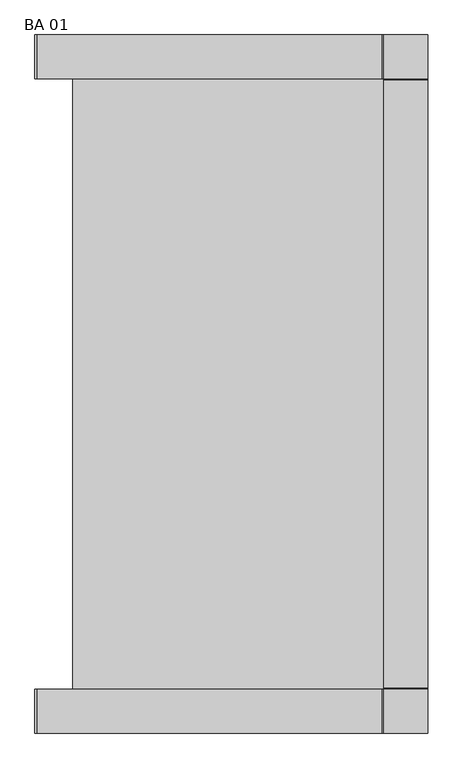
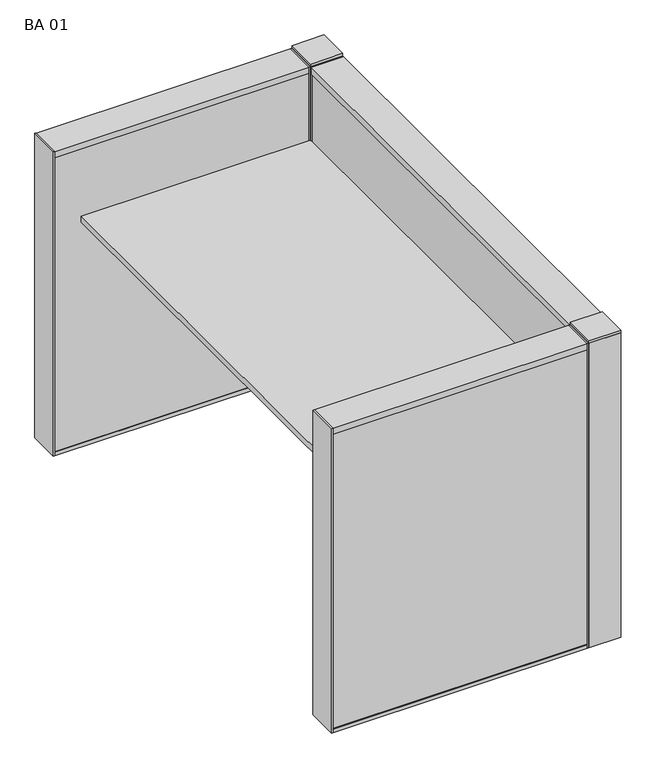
"""IFC4 building model written with IfcOpenShell, lengths in millimetres: furniture geometry, Mobiliário_MobiliáriodeEscritório_LinhaReasons_BalcãodeAtendimento_Marelli : BA 01."""

from ifc_helpers import new_model, si_unit, frame, origin, origin_with_axes, place, context, project, spatial, polyline, outline, extrude, source, transform, mapped, element, save


def ba_01_71997d73(model_context):
    return source(origin(), model_context, "Body", "SweptSolid", [
        extrude(outline(polyline([(100.0, 0.0), (0.0, 0.0), (0.0, 100.0), (100.0, 100.0), (100.0, 0.0)])), origin_with_axes(), (0.0, 0.0, 1.0), 1001.0),
        extrude(outline(polyline([(100.0, 1500.0), (0.0, 1500.0), (0.0, 1600.0), (100.0, 1600.0), (100.0, 1500.0)])), origin_with_axes(), (0.0, 0.0, 1.0), 1001.0),
        extrude(outline(polyline([(0.0, 1496.0), (100.0, 1496.0), (100.0, 104.0), (0.0, 104.0), (0.0, 1496.0)])), frame((0.0, 0.0, 981.0), z_axis=(0.0, 0.0, 1.0), x_axis=(1.0, 0.0, 0.0)), (0.0, 0.0, 1.0), 20.0),
        extrude(outline(polyline([(-796.0, 0.0), (-800.0, 0.0), (-800.0, 100.0), (-796.0, 100.0), (-796.0, 0.0)])), origin_with_axes(), (0.0, 0.0, 1.0), 1001.0),
        extrude(outline(polyline([(0.0, 0.0), (-4.0, 0.0), (-4.0, 100.0), (0.0, 100.0), (0.0, 0.0)])), origin_with_axes(), (0.0, 0.0, 1.0), 1001.0),
        extrude(outline(polyline([(-796.0, 1600.0), (-796.0, 1500.0), (-800.0, 1500.0), (-800.0, 1600.0), (-796.0, 1600.0)])), origin_with_axes(), (0.0, 0.0, 1.0), 1001.0),
        extrude(outline(polyline([(0.0, 1600.0), (0.0, 1500.0), (-4.0, 1500.0), (-4.0, 1600.0), (0.0, 1600.0)])), origin_with_axes(), (0.0, 0.0, 1.0), 1001.0),
        extrude(outline(polyline([(100.0, 100.0), (0.0, 100.0), (0.0, 104.0), (100.0, 104.0), (100.0, 100.0)])), origin_with_axes(), (0.0, 0.0, 1.0), 1001.0),
        extrude(outline(polyline([(100.0, 1500.0), (100.0, 1496.0), (0.0, 1496.0), (0.0, 1500.0), (100.0, 1500.0)])), origin_with_axes(), (0.0, 0.0, 1.0), 1001.0),
        extrude(outline(polyline([(-4.0, 1500.0), (-796.0, 1500.0), (-796.0, 1600.0), (-4.0, 1600.0), (-4.0, 1500.0)])), frame((0.0, 0.0, 981.0), z_axis=(0.0, 0.0, 1.0), x_axis=(1.0, 0.0, 0.0)), (0.0, 0.0, 1.0), 20.0),
        extrude(outline(polyline([(-4.0, 100.0), (-4.0, 0.0), (-796.0, 0.0), (-796.0, 100.0), (-4.0, 100.0)])), frame((0.0, 0.0, 981.0), z_axis=(0.0, 0.0, 1.0), x_axis=(1.0, 0.0, 0.0)), (0.0, 0.0, 1.0), 20.0),
        extrude(outline(polyline([(-4.0, 100.0), (-4.0, 0.0), (-796.0, 0.0), (-796.0, 100.0), (-4.0, 100.0)])), origin_with_axes(), (0.0, 0.0, 1.0), 12.0),
        extrude(outline(polyline([(-4.0, 1600.0), (-4.0, 1500.0), (-796.0, 1500.0), (-796.0, 1600.0), (-4.0, 1600.0)])), origin_with_axes(), (0.0, 0.0, 1.0), 12.0),
        extrude(outline(polyline([(100.0, 1496.0), (100.0, 104.0), (0.0, 104.0), (0.0, 1496.0), (100.0, 1496.0)])), origin_with_axes(), (0.0, 0.0, 1.0), 12.0),
        extrude(outline(polyline([(-4.0, 97.5), (-4.0, 2.5), (-796.0, 2.5), (-796.0, 97.5), (-4.0, 97.5)])), frame((0.0, 0.0, 12.0), z_axis=(0.0, 0.0, 1.0), x_axis=(1.0, 0.0, 0.0)), (0.0, 0.0, 1.0), 969.0),
        extrude(outline(polyline([(2.5, 104.0), (2.5, 1496.0), (97.5, 1496.0), (97.5, 104.0), (2.5, 104.0)])), frame((0.0, 0.0, 12.0), z_axis=(0.0, 0.0, 1.0), x_axis=(1.0, 0.0, 0.0)), (0.0, 0.0, 1.0), 969.0),
        extrude(outline(polyline([(-4.0, 1502.5), (-796.0, 1502.5), (-796.0, 1597.5), (-4.0, 1597.5), (-4.0, 1502.5)])), frame((0.0, 0.0, 12.0), z_axis=(0.0, 0.0, 1.0), x_axis=(1.0, 0.0, 0.0)), (0.0, 0.0, 1.0), 969.0),
        extrude(outline(polyline([(-713.6, 1500.0), (0.0, 1500.0), (0.0, 100.0), (-713.6, 100.0), (-713.6, 1500.0)])), frame((0.0, 0.0, 740.0), z_axis=(0.0, 0.0, 1.0), x_axis=(1.0, 0.0, 0.0)), (0.0, 0.0, 1.0), 20.0),
        extrude(outline(polyline([(0.0, 0.0), (0.0, 100.0), (100.0, 100.0), (100.0, 0.0), (0.0, 0.0)])), frame((0.0, 0.0, 1001.0), z_axis=(0.0, 0.0, 1.0), x_axis=(1.0, 0.0, 0.0)), (0.0, 0.0, 1.0), 9.0),
        extrude(outline(polyline([(0.0, 1600.0), (100.0, 1600.0), (100.0, 1500.0), (0.0, 1500.0), (0.0, 1600.0)])), frame((0.0, 0.0, 1001.0), z_axis=(0.0, 0.0, 1.0), x_axis=(1.0, 0.0, 0.0)), (0.0, 0.0, 1.0), 9.0),
    ])


if __name__ == "__main__":
    model = new_model("IFC4")
    model_context = context("Model", 3, world=origin())
    ifc_project = project(units=[si_unit("LENGTHUNIT", "METRE", prefix="MILLI")], contexts=[model_context])
    site = spatial("IfcSite", under=ifc_project)
    building = spatial("IfcBuilding", under=site)
    placement = place(None, origin())
    ba_01_shape = ba_01_71997d73(model_context)
    element("IfcFurniture", 1, ObjectType="Mobiliário_MobiliáriodeEscritório_LinhaReasons_BalcãodeAtendimento_Marelli : BA 01", at=placement, inside=building, context=model_context, shape_type="MappedRepresentation", body=[
        mapped(ba_01_shape, transform((0.0, 0.0, 0.0), x_axis=(1.0, 0.0, 0.0), y_axis=(0.0, 1.0, 0.0), z_axis=(0.0, 0.0, 1.0))),
    ])
    save(model, "model.ifc")
